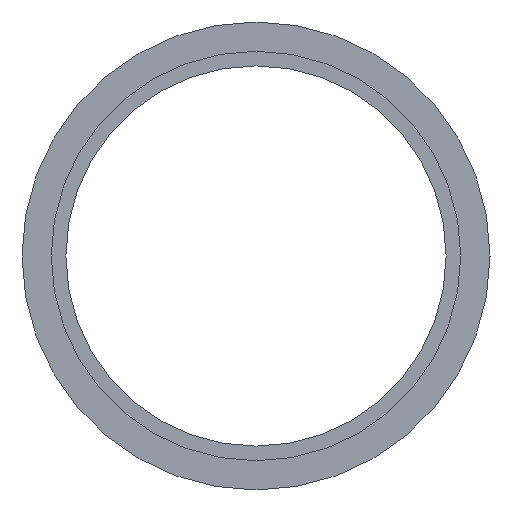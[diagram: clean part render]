
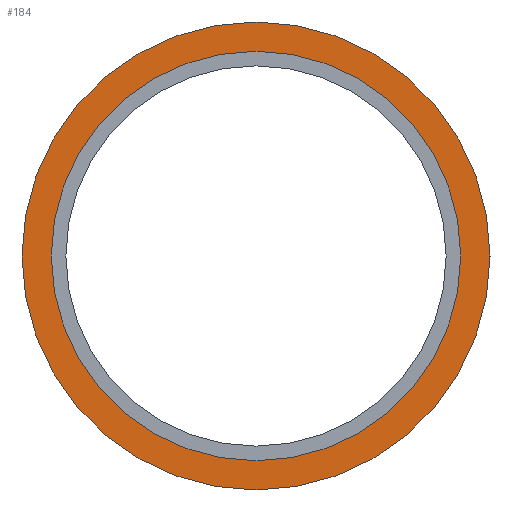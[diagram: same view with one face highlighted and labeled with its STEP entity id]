
A CAD part, left-side view. The second image highlights one B-rep face of the part: STEP entity #184.
In plain terms, the highlighted planar face has unit normal (-1, 0, 0).
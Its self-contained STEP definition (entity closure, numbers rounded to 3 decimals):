
#73 = VERTEX_POINT ( 'NONE', #135 ) ;
#135 = CARTESIAN_POINT ( 'NONE',  ( -110., 0., -16. ) ) ;
#174 = ORIENTED_EDGE ( 'NONE', *, *, #183, .F. ) ;
#176 = ORIENTED_EDGE ( 'NONE', *, *, #208, .T. ) ;
#179 = EDGE_LOOP ( 'NONE', ( #174, #192 ) ) ;
#181 = EDGE_LOOP ( 'NONE', ( #176, #194 ) ) ;
#183 = EDGE_CURVE ( 'NONE', #188, #197, #301, .T. ) ;
#184 = ADVANCED_FACE ( 'NONE', ( #342, #359 ), #360, .F. ) ;
#185 = EDGE_CURVE ( 'NONE', #73, #207, #255, .T. ) ;
#186 = EDGE_CURVE ( 'NONE', #197, #188, #353, .T. ) ;
#188 = VERTEX_POINT ( 'NONE', #328 ) ;
#192 = ORIENTED_EDGE ( 'NONE', *, *, #186, .F. ) ;
#194 = ORIENTED_EDGE ( 'NONE', *, *, #185, .T. ) ;
#197 = VERTEX_POINT ( 'NONE', #316 ) ;
#207 = VERTEX_POINT ( 'NONE', #310 ) ;
#208 = EDGE_CURVE ( 'NONE', #207, #73, #315, .T. ) ;
#221 = AXIS2_PLACEMENT_3D ( 'NONE', #350, #358, #357 ) ;
#233 = DIRECTION ( 'NONE',  ( 0., 0., 1. ) ) ;
#234 = DIRECTION ( 'NONE',  ( -1., 0., 0. ) ) ;
#235 = CARTESIAN_POINT ( 'NONE',  ( -110., 0., 0. ) ) ;
#238 = AXIS2_PLACEMENT_3D ( 'NONE', #235, #234, #233 ) ;
#251 = DIRECTION ( 'NONE',  ( -1., 0., 0. ) ) ;
#252 = CARTESIAN_POINT ( 'NONE',  ( -110., 0., 0. ) ) ;
#253 = AXIS2_PLACEMENT_3D ( 'NONE', #252, #251, #331 ) ;
#255 = CIRCLE ( 'NONE', #253, 16. ) ;
#301 = CIRCLE ( 'NONE', #356, 14. ) ;
#310 = CARTESIAN_POINT ( 'NONE',  ( -110., 0., 16. ) ) ;
#315 = CIRCLE ( 'NONE', #238, 16. ) ;
#316 = CARTESIAN_POINT ( 'NONE',  ( -110., 0., -14. ) ) ;
#325 = DIRECTION ( 'NONE',  ( 0., 0., 1. ) ) ;
#326 = DIRECTION ( 'NONE',  ( -1., 0., 0. ) ) ;
#328 = CARTESIAN_POINT ( 'NONE',  ( -110., 0., 14. ) ) ;
#331 = DIRECTION ( 'NONE',  ( 0., 0., 1. ) ) ;
#342 = FACE_BOUND ( 'NONE', #179, .T. ) ;
#350 = CARTESIAN_POINT ( 'NONE',  ( -110., 14., 0. ) ) ;
#351 = CARTESIAN_POINT ( 'NONE',  ( -110., 0., 0. ) ) ;
#352 = AXIS2_PLACEMENT_3D ( 'NONE', #351, #326, #325 ) ;
#353 = CIRCLE ( 'NONE', #352, 14. ) ;
#354 = DIRECTION ( 'NONE',  ( 0., 0., 1. ) ) ;
#355 = DIRECTION ( 'NONE',  ( -1., 0., 0. ) ) ;
#356 = AXIS2_PLACEMENT_3D ( 'NONE', #364, #355, #354 ) ;
#357 = DIRECTION ( 'NONE',  ( 0., 0., -1. ) ) ;
#358 = DIRECTION ( 'NONE',  ( 1., 0., 0. ) ) ;
#359 = FACE_OUTER_BOUND ( 'NONE', #181, .T. ) ;
#360 = PLANE ( 'NONE',  #221 ) ;
#364 = CARTESIAN_POINT ( 'NONE',  ( -110., 0., 0. ) ) ;
